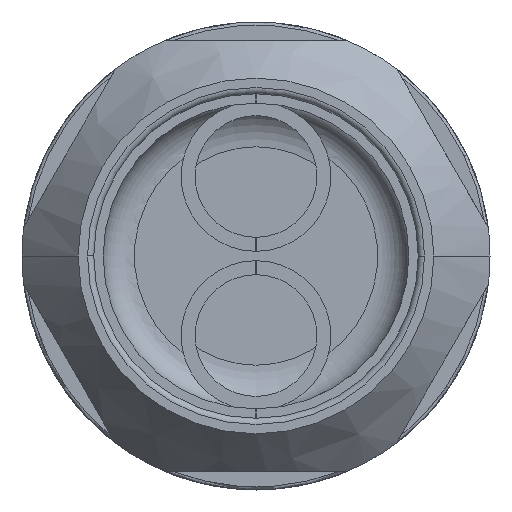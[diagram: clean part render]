
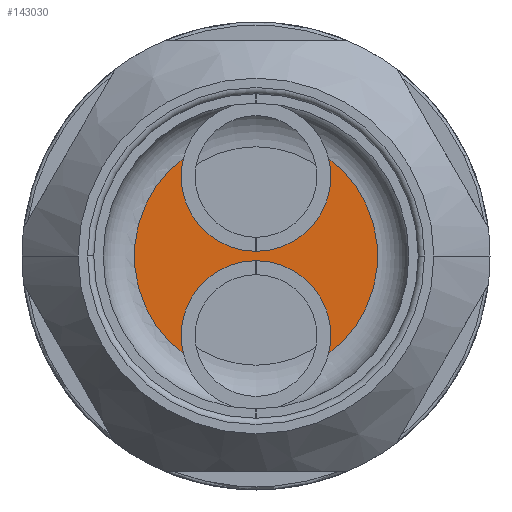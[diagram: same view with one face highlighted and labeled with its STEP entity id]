
A CAD part, front view. The second image highlights one B-rep face of the part: STEP entity #143030.
In plain terms, the highlighted planar face has unit normal (0, -1, 0).
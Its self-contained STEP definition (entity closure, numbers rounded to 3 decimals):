
#142440=CARTESIAN_POINT('',(62.679,-21.05,0.));
#142450=DIRECTION('',(-0.,1.,0.));
#142460=DIRECTION('',(1.,0.,0.));
#142470=AXIS2_PLACEMENT_3D('',#142440,#142450,#142460);
#142480=PLANE('',#142470);
#142490=CARTESIAN_POINT('',(50.429,-21.05,12.75));
#142500=DIRECTION('',(0.,1.,0.));
#142510=DIRECTION('',(1.,0.,0.));
#142520=AXIS2_PLACEMENT_3D('',#142490,#142500,#142510);
#142530=CIRCLE('',#142520,11.75);
#142540=CARTESIAN_POINT('',(38.679,-21.05,12.75));
#142550=VERTEX_POINT('',#142540);
#142560=CARTESIAN_POINT('',(39.102,-21.05,15.873
));
#142570=VERTEX_POINT('',#142560);
#142580=EDGE_CURVE('',#142550,#142570,#142530,.T.);
#142590=ORIENTED_EDGE('',*,*,#142580,.T.);
#142600=CARTESIAN_POINT('',(62.179,-21.05,12.75));
#142610=VERTEX_POINT('',#142600);
#142620=EDGE_CURVE('',#142610,#142550,#142530,.T.);
#142630=ORIENTED_EDGE('',*,*,#142620,.T.);
#142640=CARTESIAN_POINT('',(61.757,-21.05,15.873
));
#142650=VERTEX_POINT('',#142640);
#142660=EDGE_CURVE('',#142650,#142610,#142530,.T.);
#142670=ORIENTED_EDGE('',*,*,#142660,.T.);
#142680=CARTESIAN_POINT('',(50.429,-21.05,0.));
#142690=DIRECTION('',(0.,1.,0.));
#142700=DIRECTION('',(1.,0.,0.));
#142710=AXIS2_PLACEMENT_3D('',#142680,#142690,#142700);
#142720=CIRCLE('',#142710,19.5);
#142730=CARTESIAN_POINT('',(61.757,-21.05,
-15.873));
#142740=VERTEX_POINT('',#142730);
#142750=EDGE_CURVE('',#142650,#142740,#142720,.T.);
#142760=ORIENTED_EDGE('',*,*,#142750,.F.);
#142770=CARTESIAN_POINT('',(50.429,-21.05,-12.75));
#142780=DIRECTION('',(0.,1.,0.));
#142790=DIRECTION('',(1.,0.,0.));
#142800=AXIS2_PLACEMENT_3D('',#142770,#142780,#142790);
#142810=CIRCLE('',#142800,11.75);
#142820=CARTESIAN_POINT('',(62.179,-21.05,-12.75));
#142830=VERTEX_POINT('',#142820);
#142840=EDGE_CURVE('',#142830,#142740,#142810,.T.);
#142850=ORIENTED_EDGE('',*,*,#142840,.T.);
#142860=CARTESIAN_POINT('',(38.679,-21.05,-12.75));
#142870=VERTEX_POINT('',#142860);
#142880=EDGE_CURVE('',#142870,#142830,#142810,.T.);
#142890=ORIENTED_EDGE('',*,*,#142880,.T.);
#142900=CARTESIAN_POINT('',(39.102,-21.05,
-15.873));
#142910=VERTEX_POINT('',#142900);
#142920=EDGE_CURVE('',#142910,#142870,#142810,.T.);
#142930=ORIENTED_EDGE('',*,*,#142920,.T.);
#142940=CARTESIAN_POINT('',(50.429,-21.05,0.));
#142950=DIRECTION('',(0.,1.,0.));
#142960=DIRECTION('',(1.,0.,0.));
#142970=AXIS2_PLACEMENT_3D('',#142940,#142950,#142960);
#142980=CIRCLE('',#142970,19.5);
#142990=EDGE_CURVE('',#142910,#142570,#142980,.T.);
#143000=ORIENTED_EDGE('',*,*,#142990,.F.);
#143010=EDGE_LOOP('',(#143000,#142930,#142890,#142850,#142760,#142670,
#142630,#142590));
#143020=FACE_OUTER_BOUND('',#143010,.T.);
#143030=ADVANCED_FACE('',(#143020),#142480,.F.);
